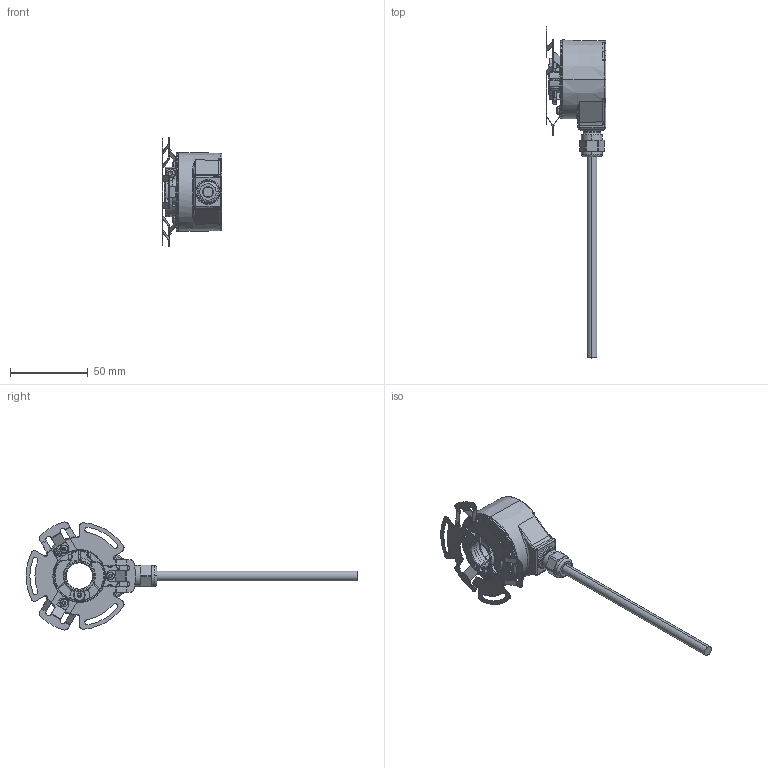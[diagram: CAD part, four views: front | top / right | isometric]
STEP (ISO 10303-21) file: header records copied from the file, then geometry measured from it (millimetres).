
FILE_DESCRIPTION (( 'STEP AP203' ), '1' );
FILE_NAME ('847B-Q4XX-RPXXXXX.STEP', '2014-10-01T19:57:19', ( 'Windows 7 64-Bit' ), ( 'SICK Inc.' ), 'SwSTEP 2.0', 'SolidWorks 2014', '' );
FILE_SCHEMA (( 'CONFIG_CONTROL_DESIGN' ));
Length unit declared in the file: millimetre
Products named in the file (1): 847B-Q4XX-RPXXXXX
Bounding box: 38.5 x 213.29 x 69.46 mm (x, y, z)
Surface area: 25915.8 mm2 (no closed solid volume)
Topology: 0 solids, 31 shells, 666 faces, 2014 edges, 1301 vertices
Faces by surface type: cylinder 286, plane 160, cone 122, bspline 48, torus 32, sphere 18
Entity records: 24860 total; most frequent: CARTESIAN_POINT 7933, DIRECTION 3441, ORIENTED_EDGE 3347, EDGE_CURVE 1986, AXIS2_PLACEMENT_3D 1375, VERTEX_POINT 1301, CIRCLE 756, EDGE_LOOP 712
